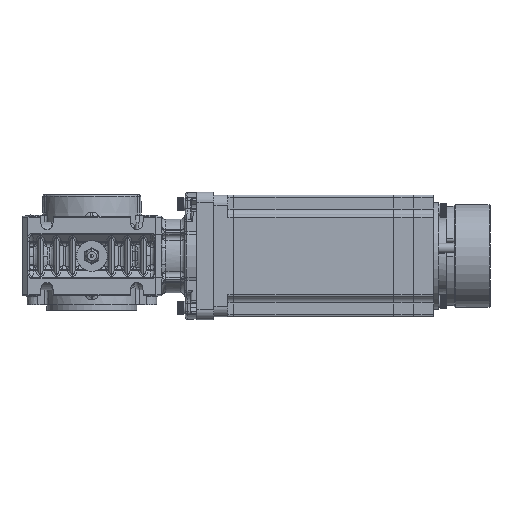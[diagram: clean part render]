
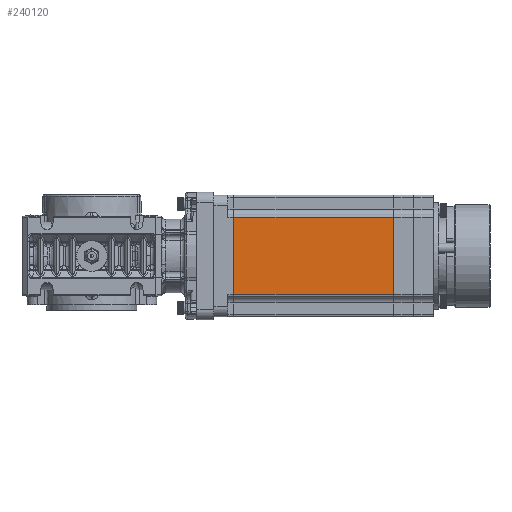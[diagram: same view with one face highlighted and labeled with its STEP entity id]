
A CAD part, front view. The second image highlights one B-rep face of the part: STEP entity #240120.
In plain terms, the highlighted planar face has unit normal (0, -1, 0).
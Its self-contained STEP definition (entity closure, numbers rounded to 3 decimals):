
#5067 = LINE ( 'NONE', #212466, #59901 ) ;
#6550 = ORIENTED_EDGE ( 'NONE', *, *, #250880, .T. ) ;
#15477 = CARTESIAN_POINT ( 'NONE',  ( -46.84, 1.5, -6.5 ) ) ;
#17896 = PLANE ( 'NONE',  #202633 ) ;
#21837 = DIRECTION ( 'NONE',  ( 1., 0., 0. ) ) ;
#27514 = CARTESIAN_POINT ( 'NONE',  ( 33.16, 1.5, -6.5 ) ) ;
#35762 = LINE ( 'NONE', #15477, #138964 ) ;
#51211 = VECTOR ( 'NONE', #125895, 1000. ) ;
#53229 = LINE ( 'NONE', #234955, #74010 ) ;
#53381 = ORIENTED_EDGE ( 'NONE', *, *, #159426, .F. ) ;
#54105 = EDGE_CURVE ( 'NONE', #103574, #122634, #53229, .T. ) ;
#59901 = VECTOR ( 'NONE', #149254, 1000. ) ;
#70477 = EDGE_CURVE ( 'NONE', #103574, #128783, #104381, .T. ) ;
#72821 = CARTESIAN_POINT ( 'NONE',  ( 33.16, 1.5, -51.5 ) ) ;
#73378 = DIRECTION ( 'NONE',  ( -1., 0., 0. ) ) ;
#74010 = VECTOR ( 'NONE', #73378, 1000. ) ;
#103574 = VERTEX_POINT ( 'NONE', #178770 ) ;
#104381 = LINE ( 'NONE', #27514, #51211 ) ;
#116506 = DIRECTION ( 'NONE',  ( 0., 0., 1. ) ) ;
#120840 = ORIENTED_EDGE ( 'NONE', *, *, #54105, .T. ) ;
#122634 = VERTEX_POINT ( 'NONE', #138206 ) ;
#125895 = DIRECTION ( 'NONE',  ( 0., 0., -1. ) ) ;
#128783 = VERTEX_POINT ( 'NONE', #72821 ) ;
#134743 = EDGE_LOOP ( 'NONE', ( #227995, #120840, #53381, #6550 ) ) ;
#137557 = VERTEX_POINT ( 'NONE', #152733 ) ;
#138206 = CARTESIAN_POINT ( 'NONE',  ( -46.84, 1.5, -12.5 ) ) ;
#138964 = VECTOR ( 'NONE', #116506, 1000. ) ;
#144368 = CARTESIAN_POINT ( 'NONE',  ( 53.16, 1.5, -6.5 ) ) ;
#149254 = DIRECTION ( 'NONE',  ( 1., 0., 0. ) ) ;
#152733 = CARTESIAN_POINT ( 'NONE',  ( -46.84, 1.5, -51.5 ) ) ;
#159426 = EDGE_CURVE ( 'NONE', #137557, #122634, #35762, .T. ) ;
#160585 = DIRECTION ( 'NONE',  ( 0., -1., 0. ) ) ;
#165879 = FACE_OUTER_BOUND ( 'NONE', #134743, .T. ) ;
#178770 = CARTESIAN_POINT ( 'NONE',  ( 33.16, 1.5, -12.5 ) ) ;
#202633 = AXIS2_PLACEMENT_3D ( 'NONE', #144368, #160585, #21837 ) ;
#212466 = CARTESIAN_POINT ( 'NONE',  ( 53.16, 1.5, -51.5 ) ) ;
#227995 = ORIENTED_EDGE ( 'NONE', *, *, #70477, .F. ) ;
#234955 = CARTESIAN_POINT ( 'NONE',  ( -49.84, 1.5, -12.5 ) ) ;
#240120 = ADVANCED_FACE ( 'NONE', ( #165879 ), #17896, .T. ) ;
#250880 = EDGE_CURVE ( 'NONE', #137557, #128783, #5067, .T. ) ;
